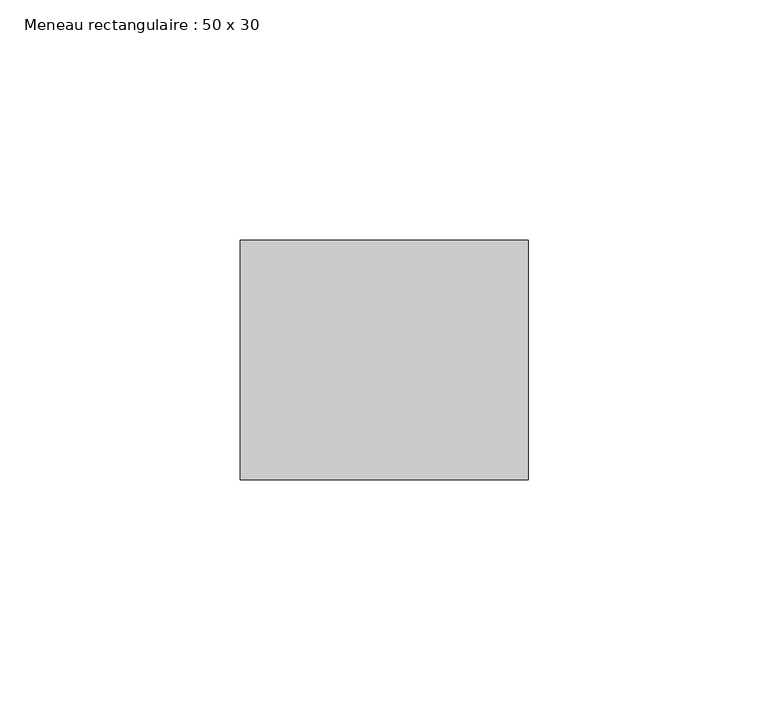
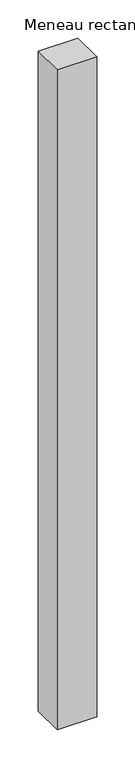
"""IFC4 building model written with IfcOpenShell, lengths in millimetres: member geometry, Meneau rectangulaire : 50 x 30."""

from ifc_helpers import new_model, si_unit, frame, origin, place, context, project, spatial, polyline, outline, extrude, source, transform, mapped, element, save


def meneau_rectangulaire_50_x_30_43c2e4ca(model_context):
    return source(origin(), model_context, "Body", "SweptSolid", [
        extrude(outline(polyline([(0.0, 0.0), (0.0, -50.0), (-60.0, -50.0), (-60.0, 0.0), (0.0, 0.0)])), frame((0.0, 0.0, -1060.0), z_axis=(0.0, 0.0, 1.0), x_axis=(1.0, 0.0, 0.0)), (0.0, 0.0, 1.0), 1060.0),
    ])


if __name__ == "__main__":
    model = new_model("IFC4")
    model_context = context("Model", 3, world=origin())
    ifc_project = project(units=[si_unit("LENGTHUNIT", "METRE", prefix="MILLI")], contexts=[model_context])
    site = spatial("IfcSite", under=ifc_project)
    building = spatial("IfcBuilding", under=site)
    placement = place(None, origin())
    meneau_rectangulaire_50_x_30_shape = meneau_rectangulaire_50_x_30_43c2e4ca(model_context)
    element("IfcMember", 1, ObjectType="Meneau rectangulaire : 50 x 30", at=placement, inside=building, context=model_context, shape_type="MappedRepresentation", body=[
        mapped(meneau_rectangulaire_50_x_30_shape, transform((0.0, 0.0, 0.0), x_axis=(1.0, 0.0, 0.0), y_axis=(0.0, 1.0, 0.0), z_axis=(0.0, 0.0, 1.0))),
    ])
    save(model, "model.ifc")
